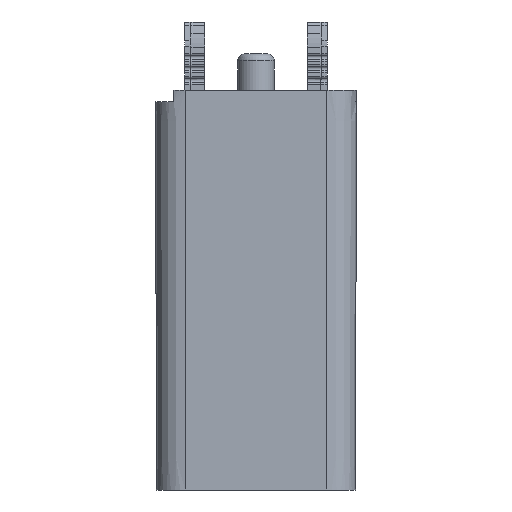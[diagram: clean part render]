
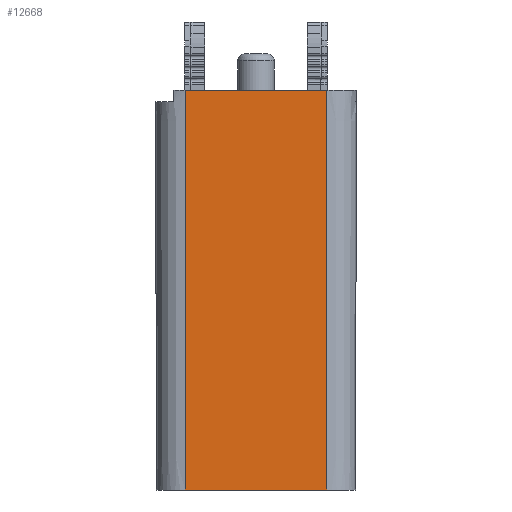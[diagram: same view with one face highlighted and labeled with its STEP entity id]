
A CAD part, left-side view. The second image highlights one B-rep face of the part: STEP entity #12668.
In plain terms, the highlighted planar face has unit normal (-1, 0, -0.002).
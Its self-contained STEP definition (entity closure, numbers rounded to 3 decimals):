
#10573=FACE_OUTER_BOUND('',#15953,.T.);
#12668=ADVANCED_FACE('53',(#10573),#14496,.F.);
#14496=PLANE('',#49382);
#15953=EDGE_LOOP('',(#21655,#21656,#21657,#21658));
#21655=ORIENTED_EDGE('',*,*,#36379,.T.);
#21656=ORIENTED_EDGE('',*,*,#34703,.T.);
#21657=ORIENTED_EDGE('',*,*,#36376,.F.);
#21658=ORIENTED_EDGE('',*,*,#35558,.T.);
#30381=VERTEX_POINT('',#65605);
#30382=VERTEX_POINT('',#65607);
#30989=VERTEX_POINT('',#67904);
#30990=VERTEX_POINT('',#67906);
#34703=EDGE_CURVE('',#30382,#30381,#40876,.T.);
#35558=EDGE_CURVE('',#30990,#30989,#41546,.T.);
#36376=EDGE_CURVE('',#30990,#30381,#41998,.T.);
#36379=EDGE_CURVE('',#30989,#30382,#42001,.T.);
#40876=LINE('',#65606,#44938);
#41546=LINE('',#67905,#45616);
#41998=LINE('',#71635,#46196);
#42001=LINE('',#71640,#46199);
#44938=VECTOR('',#53449,1.);
#45616=VECTOR('',#54761,1.);
#46196=VECTOR('',#56017,1.);
#46199=VECTOR('',#56024,1.);
#49382=AXIS2_PLACEMENT_3D('',#71642,#56027,#56028);
#53449=DIRECTION('',(0.,1.,0.));
#54761=DIRECTION('',(0.,-1.,0.));
#56017=DIRECTION('',(-0.002,0.,1.));
#56024=DIRECTION('',(-0.002,0.,1.));
#56027=DIRECTION('',(1.,0.,0.002));
#56028=DIRECTION('',(0.002,0.,-1.));
#65605=CARTESIAN_POINT('',(-17.7,3.1,7.25));
#65606=CARTESIAN_POINT('',(-17.7,0.,7.25));
#65607=CARTESIAN_POINT('',(-17.7,-3.1,7.25));
#67904=CARTESIAN_POINT('',(-17.66,-3.1,-10.25));
#67905=CARTESIAN_POINT('',(-17.66,-0.422,-10.25));
#67906=CARTESIAN_POINT('',(-17.66,3.1,-10.25));
#71635=CARTESIAN_POINT('',(-17.7,3.1,7.25));
#71640=CARTESIAN_POINT('',(-17.7,-3.1,7.25));
#71642=CARTESIAN_POINT('',(-17.7,-0.422,7.25));
